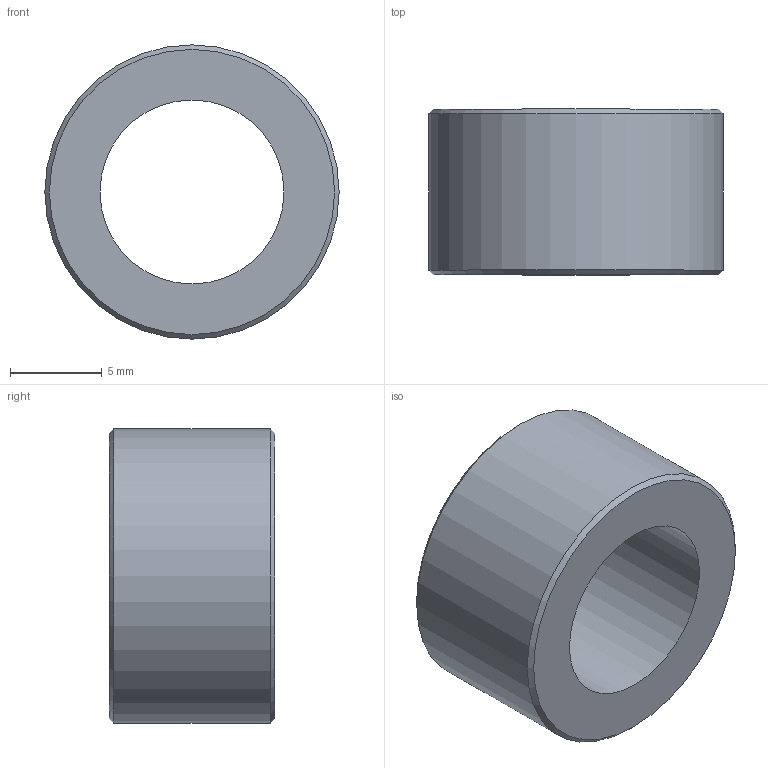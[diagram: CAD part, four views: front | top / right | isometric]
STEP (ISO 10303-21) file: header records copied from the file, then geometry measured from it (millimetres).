
FILE_DESCRIPTION(/* description */ ('','CAx-IF Rec.Pracs.---Representation and Presentation of Product Manufacturing Information (PMI)---4.0---2014-10-13'),/* implementation_level */ '2;1');
FILE_NAME(/* name */ 'Aluminium Spacer - 10mm - 9mm.step',/* time_stamp */ '2024-11-30T18:29:50+02:00',/* author */ (''),/* organization */ (''),/* preprocessor_version */ 'ST-DEVELOPER v20',/* originating_system */ 'Autodesk Translation Framework v13.20.0.188',/* authorisation */ '');
FILE_SCHEMA (('AP242_MANAGED_MODEL_BASED_3D_ENGINEERING_MIM_LF { 1 0 10303 442 1 1 4 }'));
Length unit declared in the file: millimetre
Products named in the file (1): Aluminium Spacer -  10mm - 9mm
Bounding box: 16 x 9 x 16 mm (x, y, z)
Volume: 1099.6 mm3; surface area: 965.3 mm2
Topology: 1 solids, 1 shells, 6 faces, 10 edges, 6 vertices
Faces by surface type: cone 2, cylinder 2, plane 2
Full cylindrical faces by diameter (mm): 10 x1, 16 x1
Entity records: 181 total; most frequent: DIRECTION 30, CARTESIAN_POINT 23, ORIENTED_EDGE 20, AXIS2_PLACEMENT_3D 13, EDGE_CURVE 10, EDGE_LOOP 8, FACE_OUTER_BOUND 6, CIRCLE 6
